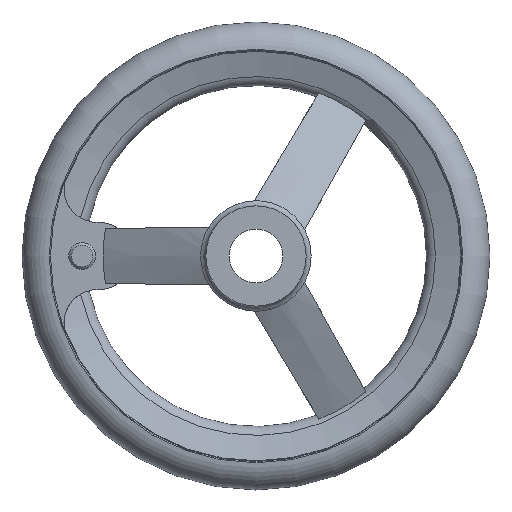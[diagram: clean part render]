
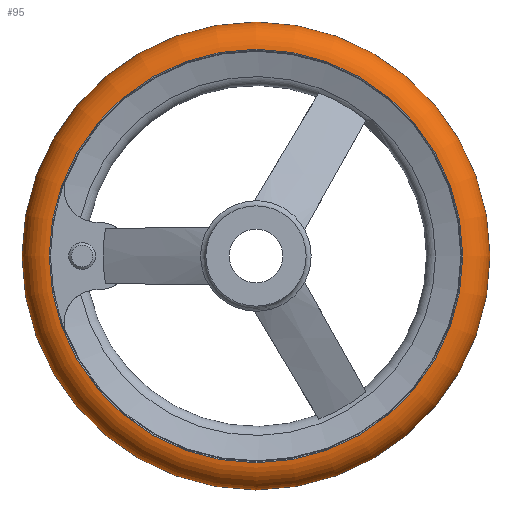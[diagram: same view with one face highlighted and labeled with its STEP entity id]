
A CAD part, left-side view. The second image highlights one B-rep face of the part: STEP entity #95.
In plain terms, the highlighted toroidal (fillet/blend) face has major radius 61.492 mm and minor radius 8.508 mm.
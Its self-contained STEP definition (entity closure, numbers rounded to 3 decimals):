
#95 = ADVANCED_FACE( '', ( #172, #173, #174 ), #175, .T. );
#172 = FACE_BOUND( '', #320, .T. );
#173 = FACE_OUTER_BOUND( '', #321, .T. );
#174 = FACE_OUTER_BOUND( '', #322, .T. );
#175 = TOROIDAL_SURFACE( '', #323, 61.492, 8.508 );
#320 = VERTEX_LOOP( '', #552 );
#321 = EDGE_LOOP( '', ( #553 ) );
#322 = EDGE_LOOP( '', ( #554 ) );
#323 = AXIS2_PLACEMENT_3D( '', #555, #556, #557 );
#552 = VERTEX_POINT( '', #790 );
#553 = ORIENTED_EDGE( '', *, *, #791, .T. );
#554 = ORIENTED_EDGE( '', *, *, #792, .F. );
#555 = CARTESIAN_POINT( '', ( 30.5, 0., 0. ) );
#556 = DIRECTION( '', ( 1., 0., 0. ) );
#557 = DIRECTION( '', ( 0., 1., 0. ) );
#790 = CARTESIAN_POINT( '', ( 30.5, 70., 0. ) );
#791 = EDGE_CURVE( '', #950, #950, #951, .T. );
#792 = EDGE_CURVE( '', #952, #952, #953, .T. );
#950 = VERTEX_POINT( '', #1497 );
#951 = CIRCLE( '', #1498, 61.854 );
#952 = VERTEX_POINT( '', #1499 );
#953 = CIRCLE( '', #1500, 61.854 );
#1497 = CARTESIAN_POINT( '', ( 22., 61.854, 0. ) );
#1498 = AXIS2_PLACEMENT_3D( '', #1689, #1690, #1691 );
#1499 = CARTESIAN_POINT( '', ( 39., 61.854, 0. ) );
#1500 = AXIS2_PLACEMENT_3D( '', #1692, #1693, #1694 );
#1689 = CARTESIAN_POINT( '', ( 22., 0., 0. ) );
#1690 = DIRECTION( '', ( 1., 0., 0. ) );
#1691 = DIRECTION( '', ( 0., 1., 0. ) );
#1692 = CARTESIAN_POINT( '', ( 39., 0., 0. ) );
#1693 = DIRECTION( '', ( 1., 0., 0. ) );
#1694 = DIRECTION( '', ( 0., 1., 0. ) );
